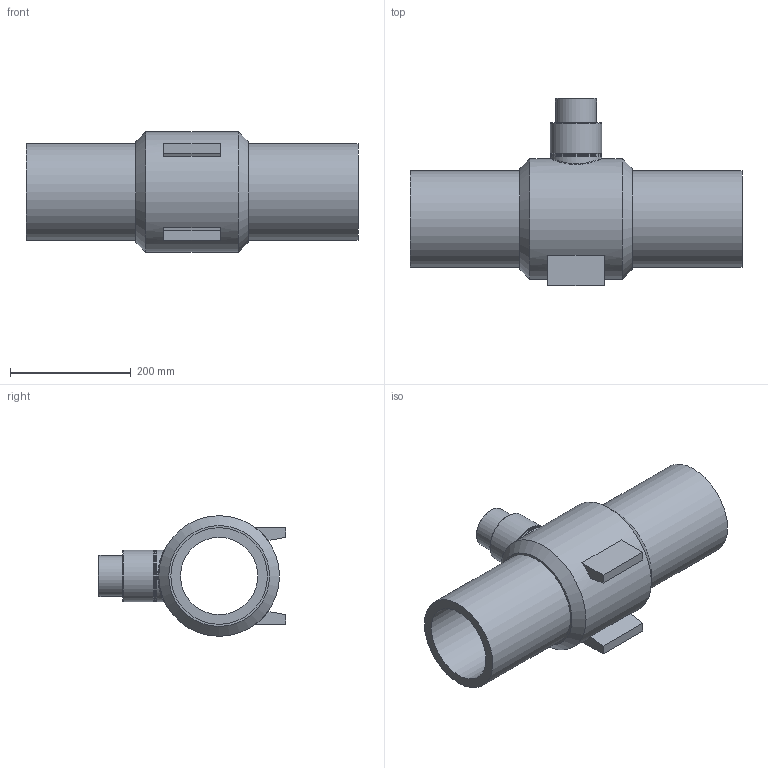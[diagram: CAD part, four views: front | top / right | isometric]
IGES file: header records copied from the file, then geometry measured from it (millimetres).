
Global section: file name: 436207160.ipt; native system: Autodesk Inventor 2015; preprocessor: unknown; author: Кирилл,,11,0; organization: 20170828.110610; date: 20171106.093344; units: millimetre
Bounding box: 550 x 310 x 200 mm (x, y, z)
Volume: 5628815.2 mm3; surface area: 604711.3 mm2
Topology: 1 solids, 1 shells, 33 faces, 81 edges, 54 vertices
Faces by surface type: plane 16, cylinder 7, cone 4, revolution 4, bspline 2
Full cylindrical faces by diameter (mm): 68 x1, 85 x3, 160 x2, 200 x1
